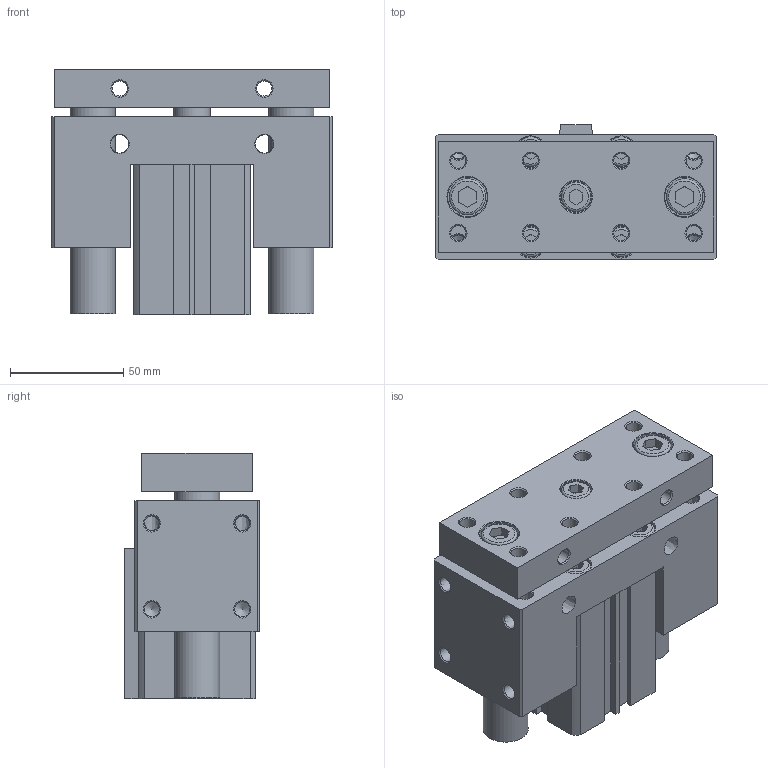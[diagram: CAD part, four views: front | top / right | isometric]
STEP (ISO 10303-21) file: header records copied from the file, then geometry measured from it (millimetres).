
FILE_DESCRIPTION((''),'2;1');
FILE_NAME('I:\3D電子目錄\氣缸\JCB\JCB\JCB40-S\JCB40x30-S.stp','2007-08-23T20:14:23',('Administrator'),(''),'Autodesk Inventor 11','Autodesk Inventor 11','');
FILE_SCHEMA(('AUTOMOTIVE_DESIGN { 1 0 10303 214 1 1 1 1 }'));
Length unit declared in the file: millimetre
Products named in the file (1): JCB40
Bounding box: 124 x 59.5 x 108.5 mm (x, y, z)
Volume: 527039.3 mm3; surface area: 117534.4 mm2
Topology: 3 solids, 3 shells, 303 faces, 731 edges, 473 vertices
Faces by surface type: plane 163, cylinder 52, cone 47, bspline 33, torus 8
Full cylindrical faces by diameter (mm): 2.2 x2, 6.647 x4, 6.8 x4, 10 x8, 13 x5, 14 x5, 16 x3, 17 x1, 17.5 x2, 20 x2, 23 x2, 28 x1, 29 x1, 42 x4, 44.5 x2
Entity records: 8528 total; most frequent: CARTESIAN_POINT 2090, DIRECTION 1302, ORIENTED_EDGE 1114, EDGE_CURVE 557, EDGE_LOOP 522, AXIS2_PLACEMENT_3D 480, VERTEX_POINT 435, VECTOR 342
